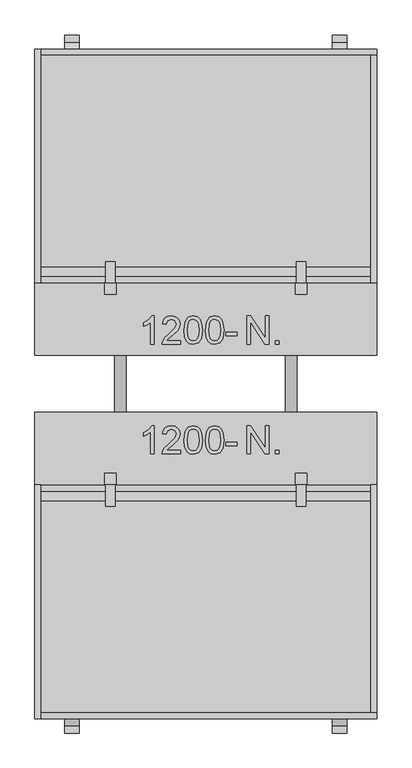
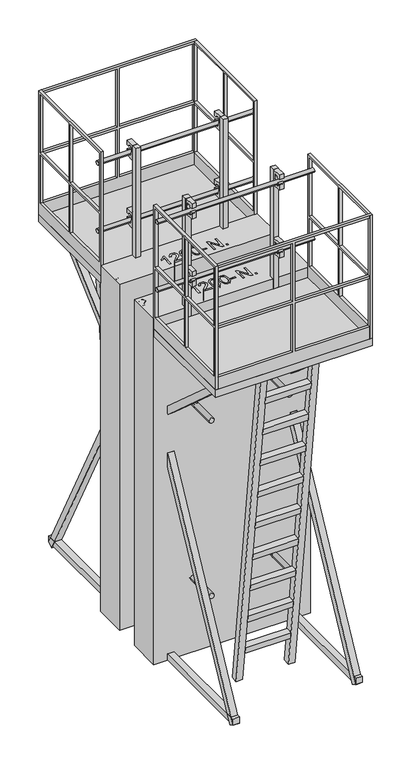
"""IFC4 building model written with IfcOpenShell, lengths in millimetres: proxy geometry, Hussor T10_Banche RNR : Hussor T10_Lg 1200_Ht 2800."""

from ifc_helpers import new_model, si_unit, point, frame, frame_2d, origin, origin_with_axes, place, context, project, spatial, polyline, circle_curve, trimmed, segment, composite_curve, outline, extrude, source, transform, mapped, element, save


def generic_models_e00ae9a7(model_context):
    return source(origin(), model_context, "Body", "SweptSolid", [
        extrude(outline(polyline([(744.6271812, -345.1349459), (744.6271812, -246.6734075), (757.8002581, -246.6734075), (809.2425658, -324.6782152), (809.2425658, -246.6734075), (821.5502581, -246.6734075), (821.5502581, -345.1349459), (808.3771812, -345.1349459), (756.9348735, -267.1060998), (756.9348735, -345.1349459), (744.6271812, -345.1349459)])), origin_with_axes(), (0.0, 0.0, 1.0), 2800.0),
        extrude(outline(polyline([(844.6271812, -345.1349459), (844.6271812, -332.8272536), (856.9348735, -332.8272536), (856.9348735, -345.1349459), (844.6271812, -345.1349459)])), origin_with_axes(), (0.0, 0.0, 1.0), 2800.0),
        extrude(outline(polyline([(419.0088327, -345.1349459), (406.7011404, -345.1349459), (406.7011404, -268.4041767), (395.0424866, -276.7094652), (382.0857558, -282.9234075), (382.0857558, -271.2887921), (400.1266212, -259.774369), (411.0761404, -246.6734075), (419.0088327, -246.6734075), (419.0088327, -345.1349459)])), origin_with_axes(), (0.0, 0.0, 1.0), 2800.0),
        extrude(outline(polyline([(511.316525, -332.8272536), (511.316525, -345.1349459), (446.7011404, -345.1349459), (448.0232558, -336.649369), (455.4992174, -323.5844652), (470.9078712, -309.3176383), (492.1578712, -288.8128306), (497.4703712, -274.8705229), (492.458352, -263.5844652), (479.3694097, -258.9810998), (465.7275827, -263.4762921), (460.5472943, -275.9041767), (448.239602, -274.3657152), (451.223376, -262.4606671), (457.6746981, -253.7647536), (467.2570299, -248.446244), (479.6338327, -246.6734075), (492.1007799, -248.6445613), (501.6650827, -254.5580229), (507.7498183, -263.3921575), (509.7780635, -274.1253306), (507.5905635, -285.7960036), (500.3189289, -297.8633113), (482.6867174, -314.7262921), (468.5280635, -326.5652344), (462.9751789, -332.8272536), (511.316525, -332.8272536)])), origin_with_axes(), (0.0, 0.0, 1.0), 2800.0),
        extrude(outline(polyline([(523.6242174, -296.6974459), (527.2420058, -268.368119), (537.9871981, -252.0339844), (555.9319097, -246.6734075), (570.3069097, -249.8464844), (580.2347943, -258.993119), (586.004025, -273.5604267), (588.239602, -296.6974459), (584.6578712, -324.9065806), (573.9487366, -341.2767729), (555.9319097, -346.6734075), (543.1434481, -344.3296575), (533.4319097, -337.2984075), (526.0761404, -320.6457633), (523.6242174, -296.6974459)]), holes=[polyline([(535.9319097, -296.6734075), (537.3742174, -316.0333834), (541.7011404, -327.2383113), (548.1434481, -332.5838642), (555.9319097, -334.3657152), (563.7203712, -332.5778546), (570.1626789, -327.2142729), (574.489602, -316.0033354), (575.9319097, -296.6734075), (574.5376789, -277.7491286), (570.3549866, -266.4570613), (563.9246981, -260.8500902), (555.7876789, -258.9810998), (548.083352, -260.6277344), (541.8934481, -265.5676383), (537.4222943, -277.5628306), (535.9319097, -296.6734075)])]), origin_with_axes(), (0.0, 0.0, 1.0), 2800.0),
        extrude(outline(polyline([(599.0088327, -296.6974459), (602.6266212, -268.368119), (613.3718135, -252.0339844), (631.316525, -246.6734075), (645.691525, -249.8464844), (655.6194097, -258.993119), (661.3886404, -273.5604267), (663.6242174, -296.6974459), (660.0424866, -324.9065806), (649.333352, -341.2767729), (631.316525, -346.6734075), (618.5280635, -344.3296575), (608.816525, -337.2984075), (601.4607558, -320.6457633), (599.0088327, -296.6974459)]), holes=[polyline([(611.316525, -296.6734075), (612.7588327, -316.0333834), (617.0857558, -327.2383113), (623.5280635, -332.5838642), (631.316525, -334.3657152), (639.1049866, -332.5778546), (645.5472943, -327.2142729), (649.8742174, -316.0033354), (651.316525, -296.6734075), (649.9222943, -277.7491286), (645.739602, -266.4570613), (639.3093135, -260.8500902), (631.1722943, -258.9810998), (623.4679674, -260.6277344), (617.2780635, -265.5676383), (612.8069097, -277.5628306), (611.316525, -296.6734075)])]), origin_with_axes(), (0.0, 0.0, 1.0), 2800.0),
        extrude(outline(polyline([(671.316525, -315.9041767), (671.316525, -303.5964844), (709.7780635, -303.5964844), (709.7780635, -315.9041767), (671.316525, -315.9041767)])), origin_with_axes(), (0.0, 0.0, 1.0), 2800.0),
        extrude(outline(polyline([(744.6271812, 40.0), (744.6271812, 138.4615385), (757.8002581, 138.4615385), (809.2425658, 60.4567308), (809.2425658, 138.4615385), (821.5502581, 138.4615385), (821.5502581, 40.0), (808.3771812, 40.0), (756.9348735, 118.0288462), (756.9348735, 40.0), (744.6271812, 40.0)])), origin_with_axes(), (0.0, 0.0, 1.0), 2800.0),
        extrude(outline(polyline([(844.6271812, 40.0), (844.6271812, 52.3076923), (856.9348735, 52.3076923), (856.9348735, 40.0), (844.6271812, 40.0)])), origin_with_axes(), (0.0, 0.0, 1.0), 2800.0),
        extrude(outline(polyline([(419.0088327, 40.0), (406.7011404, 40.0), (406.7011404, 116.7307692), (395.0424866, 108.4254808), (382.0857558, 102.2115385), (382.0857558, 113.8461538), (400.1266212, 125.3605769), (411.0761404, 138.4615385), (419.0088327, 138.4615385), (419.0088327, 40.0)])), origin_with_axes(), (0.0, 0.0, 1.0), 2800.0),
        extrude(outline(polyline([(511.316525, 52.3076923), (511.316525, 40.0), (446.7011404, 40.0), (448.0232558, 48.4855769), (455.4992174, 61.5504808), (470.9078712, 75.8173077), (492.1578712, 96.3221154), (497.4703712, 110.2644231), (492.458352, 121.5504808), (479.3694097, 126.1538462), (465.7275827, 121.6586538), (460.5472943, 109.2307692), (448.239602, 110.7692308), (451.223376, 122.6742788), (457.6746981, 131.3701923), (467.2570299, 136.6887019), (479.6338327, 138.4615385), (492.1007799, 136.4903846), (501.6650827, 130.5769231), (507.7498183, 121.7427885), (509.7780635, 111.0096154), (507.5905635, 99.3389423), (500.3189289, 87.2716346), (482.6867174, 70.4086538), (468.5280635, 58.5697115), (462.9751789, 52.3076923), (511.316525, 52.3076923)])), origin_with_axes(), (0.0, 0.0, 1.0), 2800.0),
        extrude(outline(polyline([(523.6242174, 88.4375), (527.2420058, 116.7668269), (537.9871981, 133.1009615), (555.9319097, 138.4615385), (570.3069097, 135.2884615), (580.2347943, 126.1418269), (586.004025, 111.5745192), (588.239602, 88.4375), (584.6578712, 60.2283654), (573.9487366, 43.8581731), (555.9319097, 38.4615385), (543.1434481, 40.8052885), (533.4319097, 47.8365385), (526.0761404, 64.4891827), (523.6242174, 88.4375)]), holes=[polyline([(535.9319097, 88.4615385), (537.3742174, 69.1015625), (541.7011404, 57.8966346), (548.1434481, 52.5510817), (555.9319097, 50.7692308), (563.7203712, 52.5570913), (570.1626789, 57.9206731), (574.489602, 69.1316106), (575.9319097, 88.4615385), (574.5376789, 107.3858173), (570.3549866, 118.6778846), (563.9246981, 124.2848558), (555.7876789, 126.1538462), (548.083352, 124.5072115), (541.8934481, 119.5673077), (537.4222943, 107.5721154), (535.9319097, 88.4615385)])]), origin_with_axes(), (0.0, 0.0, 1.0), 2800.0),
        extrude(outline(polyline([(599.0088327, 88.4375), (602.6266212, 116.7668269), (613.3718135, 133.1009615), (631.316525, 138.4615385), (645.691525, 135.2884615), (655.6194097, 126.1418269), (661.3886404, 111.5745192), (663.6242174, 88.4375), (660.0424866, 60.2283654), (649.333352, 43.8581731), (631.316525, 38.4615385), (618.5280635, 40.8052885), (608.816525, 47.8365385), (601.4607558, 64.4891827), (599.0088327, 88.4375)]), holes=[polyline([(611.316525, 88.4615385), (612.7588327, 69.1015625), (617.0857558, 57.8966346), (623.5280635, 52.5510817), (631.316525, 50.7692308), (639.1049866, 52.5570913), (645.5472943, 57.9206731), (649.8742174, 69.1316106), (651.316525, 88.4615385), (649.9222943, 107.3858173), (645.739602, 118.6778846), (639.3093135, 124.2848558), (631.1722943, 126.1538462), (623.4679674, 124.5072115), (617.2780635, 119.5673077), (612.8069097, 107.5721154), (611.316525, 88.4615385)])]), origin_with_axes(), (0.0, 0.0, 1.0), 2800.0),
        extrude(outline(polyline([(671.316525, 69.2307692), (671.316525, 81.5384615), (709.7780635, 81.5384615), (709.7780635, 69.2307692), (671.316525, 69.2307692)])), origin_with_axes(), (0.0, 0.0, 1.0), 2800.0),
        extrude(outline(composite_curve([segment(polyline([(-513.510911, 3615.0), (-514.6082276, 3608.7768085)]), True, "CONTINUOUS"), segment(trimmed(circle_curve(frame_2d((-494.9120725, 3605.3038449)), 20.0), [point((-514.6082276, 3608.7768085))], [point((-475.2159175, 3601.8308814))], True, "CARTESIAN"), True, "CONTINUOUS"), segment(polyline([(-475.2159175, 3601.8308814), (-468.2699903, 3641.2231915)]), True, "CONTINUOUS"), segment(trimmed(circle_curve(frame_2d((-487.9661454, 3644.696155)), 20.0), [point((-468.2699903, 3641.2231915))], [point((-507.6623005, 3648.1691186))], True, "CARTESIAN"), True, "CONTINUOUS"), segment(polyline([(-507.6623005, 3648.1691186), (-528.939109, 3648.0), (-528.939109, 3685.0), (-453.939109, 3685.0), (-453.939109, 3565.0), (-528.939109, 3565.0), (-528.939109, 3615.0), (-513.510911, 3615.0)]), True, "CONTINUOUS")], self_intersect=False)), frame((918.0, 0.0, 0.0), z_axis=(1.0, 0.0, 0.0), x_axis=(0.0, 1.0, 0.0)), (0.0, 0.0, 1.0), 34.0),
        extrude(outline(composite_curve([segment(polyline([(-453.939109, 3135.0), (-453.939109, 3015.0), (-528.939109, 3015.0), (-528.939109, 3065.0), (-513.510911, 3065.0), (-514.6082276, 3058.7768085)]), True, "CONTINUOUS"), segment(trimmed(circle_curve(frame_2d((-494.9120725, 3055.3038449)), 20.0), [point((-514.6082276, 3058.7768085))], [point((-475.2159175, 3051.8308814))], True, "CARTESIAN"), True, "CONTINUOUS"), segment(polyline([(-475.2159175, 3051.8308814), (-468.2699903, 3091.2231915)]), True, "CONTINUOUS"), segment(trimmed(circle_curve(frame_2d((-487.9661454, 3094.6961551)), 20.0), [point((-468.2699903, 3091.2231915))], [point((-507.6623005, 3098.1691186))], True, "CARTESIAN"), True, "CONTINUOUS"), segment(polyline([(-507.6623005, 3098.1691186), (-528.939109, 3098.0), (-528.939109, 3135.0), (-453.939109, 3135.0)]), True, "CONTINUOUS")], self_intersect=False)), frame((918.0, 0.0, 0.0), z_axis=(1.0, 0.0, 0.0), x_axis=(0.0, 1.0, 0.0)), (0.0, 0.0, 1.0), 34.0),
        extrude(outline(composite_curve([segment(polyline([(-513.510911, 3615.0), (-514.6082276, 3608.7768085)]), True, "CONTINUOUS"), segment(trimmed(circle_curve(frame_2d((-494.9120725, 3605.3038449)), 20.0), [point((-514.6082276, 3608.7768085))], [point((-475.2159175, 3601.8308814))], True, "CARTESIAN"), True, "CONTINUOUS"), segment(polyline([(-475.2159175, 3601.8308814), (-468.2699903, 3641.2231915)]), True, "CONTINUOUS"), segment(trimmed(circle_curve(frame_2d((-487.9661454, 3644.696155)), 20.0), [point((-468.2699903, 3641.2231915))], [point((-507.6623005, 3648.1691186))], True, "CARTESIAN"), True, "CONTINUOUS"), segment(polyline([(-507.6623005, 3648.1691186), (-528.939109, 3648.0), (-528.939109, 3685.0), (-453.939109, 3685.0), (-453.939109, 3565.0), (-528.939109, 3565.0), (-528.939109, 3615.0), (-513.510911, 3615.0)]), True, "CONTINUOUS")], self_intersect=False)), frame((248.0, 0.0, 0.0), z_axis=(1.0, 0.0, 0.0), x_axis=(0.0, 1.0, 0.0)), (0.0, 0.0, 1.0), 34.0),
        extrude(outline(composite_curve([segment(polyline([(-453.939109, 3135.0), (-453.939109, 3015.0), (-528.939109, 3015.0), (-528.939109, 3065.0), (-513.510911, 3065.0), (-514.6082276, 3058.7768085)]), True, "CONTINUOUS"), segment(trimmed(circle_curve(frame_2d((-494.9120725, 3055.3038449)), 20.0), [point((-514.6082276, 3058.7768085))], [point((-475.2159175, 3051.8308814))], True, "CARTESIAN"), True, "CONTINUOUS"), segment(polyline([(-475.2159175, 3051.8308814), (-468.2699903, 3091.2231915)]), True, "CONTINUOUS"), segment(trimmed(circle_curve(frame_2d((-487.9661454, 3094.6961551)), 20.0), [point((-468.2699903, 3091.2231915))], [point((-507.6623005, 3098.1691186))], True, "CARTESIAN"), True, "CONTINUOUS"), segment(polyline([(-507.6623005, 3098.1691186), (-528.939109, 3098.0), (-528.939109, 3135.0), (-453.939109, 3135.0)]), True, "CONTINUOUS")], self_intersect=False)), frame((248.0, 0.0, 0.0), z_axis=(1.0, 0.0, 0.0), x_axis=(0.0, 1.0, 0.0)), (0.0, 0.0, 1.0), 34.0),
        extrude(outline(composite_curve([segment(trimmed(circle_curve(frame_2d((-493.939109, 3606.8733785)), 16.0), [point((-509.939109, 3606.8733785))], [point((-477.939109, 3606.8733785))], False, "CARTESIAN"), True, "CONTINUOUS"), segment(trimmed(circle_curve(frame_2d((-493.939109, 3606.8733785)), 16.0), [point((-477.939109, 3606.8733785))], [point((-509.939109, 3606.8733785))], False, "CARTESIAN"), True, "CONTINUOUS")], self_intersect=False)), frame((0.0, 0.0, 0.0), z_axis=(1.0, 0.0, 0.0), x_axis=(0.0, 1.0, 0.0)), (0.0, 0.0, 1.0), 1200.3116462),
        extrude(outline(composite_curve([segment(trimmed(circle_curve(frame_2d((-493.939109, 3056.6233785)), 16.0), [point((-509.939109, 3056.6233785))], [point((-477.939109, 3056.6233785))], False, "CARTESIAN"), True, "CONTINUOUS"), segment(trimmed(circle_curve(frame_2d((-493.939109, 3056.6233785)), 16.0), [point((-477.939109, 3056.6233785))], [point((-509.939109, 3056.6233785))], False, "CARTESIAN"), True, "CONTINUOUS")], self_intersect=False)), frame((0.0, 0.0, 0.0), z_axis=(1.0, 0.0, 0.0), x_axis=(0.0, 1.0, 0.0)), (0.0, 0.0, 1.0), 1200.3116462),
        extrude(outline(polyline([(954.9140081, -413.939109), (954.9140081, -453.939109), (914.9140081, -453.939109), (914.9140081, -413.939109), (954.9140081, -413.939109)])), frame((0.0, 0.0, 2720.0), z_axis=(0.0, 0.0, 1.0), x_axis=(1.0, 0.0, 0.0)), (0.0, 0.0, 1.0), 965.0),
        extrude(outline(polyline([(285.0, -413.939109), (285.0, -453.939109), (245.0, -453.939109), (245.0, -413.939109), (285.0, -413.939109)])), frame((0.0, 0.0, 2720.0), z_axis=(0.0, 0.0, 1.0), x_axis=(1.0, 0.0, 0.0)), (0.0, 0.0, 1.0), 965.0),
        extrude(outline(composite_curve([segment(trimmed(circle_curve(frame_2d((600.0, 900.0)), 20.0), [point((600.0, 880.0))], [point((600.0, 920.0))], False, "CARTESIAN"), True, "CONTINUOUS"), segment(trimmed(circle_curve(frame_2d((600.0, 900.0)), 20.0), [point((600.0, 920.0))], [point((600.0, 880.0))], False, "CARTESIAN"), True, "CONTINUOUS")], self_intersect=False)), frame((0.0, -700.0, 0.0), z_axis=(0.0, 1.0, 0.0), x_axis=(0.0, 0.0, 1.0)), (0.0, 0.0, 1.0), 1000.0),
        extrude(outline(composite_curve([segment(trimmed(circle_curve(frame_2d((2020.0, 900.0)), 20.0), [point((2020.0, 880.0))], [point((2020.0, 920.0))], False, "CARTESIAN"), True, "CONTINUOUS"), segment(trimmed(circle_curve(frame_2d((2020.0, 900.0)), 20.0), [point((2020.0, 920.0))], [point((2020.0, 880.0))], False, "CARTESIAN"), True, "CONTINUOUS")], self_intersect=False)), frame((0.0, -700.0, 0.0), z_axis=(0.0, 1.0, 0.0), x_axis=(0.0, 0.0, 1.0)), (0.0, 0.0, 1.0), 1000.0),
        extrude(outline(composite_curve([segment(trimmed(circle_curve(frame_2d((2020.0, 300.0)), 20.0), [point((2020.0, 280.0))], [point((2020.0, 320.0))], False, "CARTESIAN"), True, "CONTINUOUS"), segment(trimmed(circle_curve(frame_2d((2020.0, 300.0)), 20.0), [point((2020.0, 320.0))], [point((2020.0, 280.0))], False, "CARTESIAN"), True, "CONTINUOUS")], self_intersect=False)), frame((0.0, -700.0, 0.0), z_axis=(0.0, 1.0, 0.0), x_axis=(0.0, 0.0, 1.0)), (0.0, 0.0, 1.0), 1000.0),
        extrude(outline(composite_curve([segment(trimmed(circle_curve(frame_2d((600.0, 300.0)), 20.0), [point((600.0, 280.0))], [point((600.0, 320.0))], False, "CARTESIAN"), True, "CONTINUOUS"), segment(trimmed(circle_curve(frame_2d((600.0, 300.0)), 20.0), [point((600.0, 320.0))], [point((600.0, 280.0))], False, "CARTESIAN"), True, "CONTINUOUS")], self_intersect=False)), frame((0.0, -700.0, 0.0), z_axis=(0.0, 1.0, 0.0), x_axis=(0.0, 0.0, 1.0)), (0.0, 0.0, 1.0), 1000.0),
        extrude(outline(polyline([(0.0, -993.6216584), (0.0, 0.0), (50.0, 0.0), (50.0, -993.6216584), (0.0, -993.6216584)])), frame((105.0, -462.3142578, 1994.7151475), z_axis=(0.0, 0.6662851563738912, 0.7456970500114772), x_axis=(1.0, 0.0, 0.0)), (0.0, 0.0, 1.0), 50.0),
        extrude(outline(polyline([(0.0, 993.6216584), (50.0, 993.6216584), (50.0, 0.0), (0.0, 0.0), (0.0, 993.6216584)])), frame((1095.0, -462.3142578, 1994.7151475), z_axis=(0.0, 0.6662851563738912, 0.7456970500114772), x_axis=(-1.0, 0.0, 0.0)), (0.0, 0.0, 1.0), 50.0),
        extrude(outline(polyline([(0.0, -50.0), (0.0, 0.0), (50.0, 0.0), (50.0, -50.0), (0.0, -50.0)])), frame((105.0, -1279.6283217, -23.0467821), z_axis=(0.0, 0.46093564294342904, 0.8874335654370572), x_axis=(1.0, 0.0, 0.0)), (0.0, 0.0, 1.0), 1887.4652315),
        extrude(outline(polyline([(0.0, 50.0), (50.0, 50.0), (50.0, 0.0), (0.0, 0.0), (0.0, 50.0)])), frame((1095.0, -1279.6283217, -23.0467821), z_axis=(0.0, 0.46093564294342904, 0.8874335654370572), x_axis=(-1.0, 0.0, 0.0)), (0.0, 0.0, 1.0), 1887.4652315),
        extrude(outline(polyline([(0.0, 350.0), (49.9999999, 350.0), (49.9999999, 0.0), (0.0, 0.0), (0.0, 350.0)])), frame((425.0, -875.6560615, 233.2417409), z_axis=(0.0, -0.12186934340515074, 0.9925461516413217), x_axis=(0.0, -0.9925461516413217, -0.12186934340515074)), (0.0, 0.0, 1.0), 50.0),
        extrude(outline(polyline([(0.0, 350.0), (50.0, 350.0), (50.0, 0.0), (0.0, 0.0), (0.0, 350.0)])), frame((425.0, -909.1701309, 506.1919326), z_axis=(0.0, -0.1218693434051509, 0.9925461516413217), x_axis=(0.0, -0.9925461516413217, -0.1218693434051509)), (0.0, 0.0, 1.0), 50.0),
        extrude(outline(polyline([(0.0, 350.0), (50.0, 350.0), (50.0, 0.0), (0.0, 0.0), (0.0, 350.0)])), frame((425.0, -942.6842003, 779.1421243), z_axis=(0.0, -0.12186934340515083, 0.9925461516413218), x_axis=(0.0, -0.9925461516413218, -0.12186934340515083)), (0.0, 0.0, 1.0), 50.0),
        extrude(outline(polyline([(0.0, 350.0), (50.0, 350.0), (50.0, 0.0), (0.0, 0.0), (0.0, 350.0)])), frame((425.0, -976.1982698, 1052.092316), z_axis=(0.0, -0.12186934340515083, 0.9925461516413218), x_axis=(0.0, -0.9925461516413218, -0.12186934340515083)), (0.0, 0.0, 1.0), 50.0),
        extrude(outline(polyline([(0.0, 350.0), (50.0, 350.0), (50.0, 0.0), (0.0, 0.0), (0.0, 350.0)])), frame((425.0, -1009.7123392, 1325.0425077), z_axis=(0.0, -0.12186934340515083, 0.9925461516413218), x_axis=(0.0, -0.9925461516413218, -0.12186934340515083)), (0.0, 0.0, 1.0), 50.0),
        extrude(outline(polyline([(0.0, 350.0), (50.0, 350.0), (50.0, 0.0), (0.0, 0.0), (0.0, 350.0)])), frame((425.0, -1043.2264086, 1597.9926994), z_axis=(0.0, -0.12186934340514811, 0.992546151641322), x_axis=(0.0, -0.992546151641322, -0.12186934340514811)), (0.0, 0.0, 1.0), 50.0),
        extrude(outline(polyline([(0.0, 350.0), (50.0, 350.0), (50.0, 0.0), (0.0, 0.0), (0.0, 350.0)])), frame((425.0, -1076.7404781, 1870.9428911), z_axis=(0.0, -0.12186934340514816, 0.992546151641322), x_axis=(0.0, -0.992546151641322, -0.12186934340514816)), (0.0, 0.0, 1.0), 50.0),
        extrude(outline(polyline([(0.0, 350.0), (50.0, 350.0), (50.0, 0.0), (0.0, 0.0), (0.0, 350.0)])), frame((425.0, -1110.2545475, 2143.8930828), z_axis=(0.0, -0.12186934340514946, 0.9925461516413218), x_axis=(0.0, -0.9925461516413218, -0.12186934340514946)), (0.0, 0.0, 1.0), 50.0),
        extrude(outline(polyline([(0.0, 350.0), (49.9999999, 350.0), (49.9999999, 0.0), (0.0, 0.0), (0.0, 350.0)])), frame((425.0, -1143.768617, 2416.8432745), z_axis=(0.0, -0.1218693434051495, 0.9925461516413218), x_axis=(0.0, -0.9925461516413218, -0.1218693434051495)), (0.0, 0.0, 1.0), 50.0),
        extrude(outline(polyline([(0.0, 50.0), (50.0, 50.0), (50.0, 0.0), (0.0, 0.0), (0.0, 50.0)])), frame((375.0, -847.7657604, 6.0934672), z_axis=(0.0, -0.1218693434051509, 0.9925461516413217), x_axis=(0.0, -0.9925461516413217, -0.1218693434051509)), (0.0, 0.0, 1.0), 2679.9761357),
        extrude(outline(polyline([(0.0, 50.0), (50.0, 50.0), (50.0, 0.0), (0.0, 0.0), (0.0, 50.0)])), frame((775.0, -847.7657604, 6.0934672), z_axis=(0.0, -0.1218693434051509, 0.9925461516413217), x_axis=(0.0, -0.9925461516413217, -0.1218693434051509)), (0.0, 0.0, 1.0), 2679.9761357),
        extrude(outline(polyline([(105.0, -454.0), (155.0, -454.0), (155.0, -1324.0), (105.0, -1324.0), (105.0, -454.0)])), origin_with_axes(), (0.0, 0.0, 1.0), 50.0),
        extrude(outline(polyline([(1095.0, -1324.0), (1045.0, -1324.0), (1045.0, -454.0), (1095.0, -454.0), (1095.0, -1324.0)])), origin_with_axes(), (0.0, 0.0, 1.0), 50.0),
        extrude(outline(polyline([(-1274.0, 3720.0), (-454.0, 3720.0), (-454.0, 2720.0), (-1274.0, 2720.0), (-1274.0, 3720.0)]), holes=[polyline([(-854.0, 3700.0), (-854.0, 3230.0), (-474.0, 3230.0), (-474.0, 3700.0), (-854.0, 3700.0)]), polyline([(-1254.0, 3700.0), (-1254.0, 3230.0), (-874.0, 3230.0), (-874.0, 3700.0), (-1254.0, 3700.0)]), polyline([(-874.0, 2820.0), (-874.0, 3210.0), (-1254.0, 3210.0), (-1254.0, 2820.0), (-874.0, 2820.0)]), polyline([(-474.0, 2820.0), (-474.0, 3210.0), (-854.0, 3210.0), (-854.0, 2820.0), (-474.0, 2820.0)])]), frame((0.0, 0.0, 0.0), z_axis=(1.0, 0.0, 0.0), x_axis=(0.0, 1.0, 0.0)), (0.0, 0.0, 1.0), 20.0),
        extrude(outline(polyline([(3720.0, 1200.0), (3720.0, 0.0), (2720.0, 0.0), (2720.0, 1200.0), (3720.0, 1200.0)]), holes=[polyline([(3700.0, 590.0), (3230.0, 590.0), (3230.0, 20.0), (3700.0, 20.0), (3700.0, 590.0)]), polyline([(3210.0, 590.0), (2820.0, 590.0), (2820.0, 20.0), (3210.0, 20.0), (3210.0, 590.0)]), polyline([(3700.0, 1180.0), (3230.0, 1180.0), (3230.0, 610.0), (3700.0, 610.0), (3700.0, 1180.0)]), polyline([(3210.0, 1180.0), (2820.0, 1180.0), (2820.0, 610.0), (3210.0, 610.0), (3210.0, 1180.0)])]), frame((0.0, -1274.0, 0.0), z_axis=(0.0, 1.0, 0.0), x_axis=(0.0, 0.0, 1.0)), (0.0, 0.0, 1.0), 20.0),
        extrude(outline(polyline([(-1274.0, 3720.0), (-454.0, 3720.0), (-454.0, 2720.0), (-1274.0, 2720.0), (-1274.0, 3720.0)]), holes=[polyline([(-854.0, 3700.0), (-854.0, 3230.0), (-474.0, 3230.0), (-474.0, 3700.0), (-854.0, 3700.0)]), polyline([(-1254.0, 3700.0), (-1254.0, 3230.0), (-874.0, 3230.0), (-874.0, 3700.0), (-1254.0, 3700.0)]), polyline([(-874.0, 2820.0), (-874.0, 3210.0), (-1254.0, 3210.0), (-1254.0, 2820.0), (-874.0, 2820.0)]), polyline([(-474.0, 2820.0), (-474.0, 3210.0), (-854.0, 3210.0), (-854.0, 2820.0), (-474.0, 2820.0)])]), frame((1180.0, 0.0, 0.0), z_axis=(1.0, 0.0, 0.0), x_axis=(0.0, 1.0, 0.0)), (0.0, 0.0, 1.0), 20.0),
        extrude(outline(polyline([(0.0, -454.0), (1200.0, -454.0), (1200.0, -1274.0), (0.0, -1274.0), (0.0, -454.0)])), frame((0.0, 0.0, 2660.0), z_axis=(0.0, 0.0, 1.0), x_axis=(1.0, 0.0, 0.0)), (0.0, 0.0, 1.0), 60.0),
        extrude(outline(polyline([(1200.0, -200.0), (1200.0, -454.0), (0.0, -454.0), (0.0, -200.0), (1200.0, -200.0)])), origin_with_axes(), (0.0, 0.0, 1.0), 2800.0),
        extrude(outline(composite_curve([segment(polyline([(313.510911, 3615.0), (328.939109, 3615.0), (328.939109, 3565.0), (253.939109, 3565.0), (253.939109, 3685.0), (328.939109, 3685.0), (328.939109, 3648.0), (307.6623005, 3648.1691186)]), True, "CONTINUOUS"), segment(trimmed(circle_curve(frame_2d((287.9661454, 3644.696155)), 20.0), [point((307.6623005, 3648.1691186))], [point((268.2699903, 3641.2231915))], True, "CARTESIAN"), True, "CONTINUOUS"), segment(polyline([(268.2699903, 3641.2231915), (275.2159175, 3601.8308814)]), True, "CONTINUOUS"), segment(trimmed(circle_curve(frame_2d((294.9120725, 3605.3038449)), 20.0), [point((275.2159175, 3601.8308814))], [point((314.6082276, 3608.7768085))], True, "CARTESIAN"), True, "CONTINUOUS"), segment(polyline([(314.6082276, 3608.7768085), (313.510911, 3615.0)]), True, "CONTINUOUS")], self_intersect=False)), frame((918.0, 0.0, 0.0), z_axis=(1.0, 0.0, 0.0), x_axis=(0.0, 1.0, 0.0)), (0.0, 0.0, 1.0), 34.0),
        extrude(outline(composite_curve([segment(polyline([(253.939109, 3135.0), (328.939109, 3135.0), (328.939109, 3098.0), (307.6623005, 3098.1691186)]), True, "CONTINUOUS"), segment(trimmed(circle_curve(frame_2d((287.9661454, 3094.6961551)), 20.0), [point((307.6623005, 3098.1691186))], [point((268.2699903, 3091.2231915))], True, "CARTESIAN"), True, "CONTINUOUS"), segment(polyline([(268.2699903, 3091.2231915), (275.2159175, 3051.8308814)]), True, "CONTINUOUS"), segment(trimmed(circle_curve(frame_2d((294.9120725, 3055.3038449)), 20.0), [point((275.2159175, 3051.8308814))], [point((314.6082276, 3058.7768085))], True, "CARTESIAN"), True, "CONTINUOUS"), segment(polyline([(314.6082276, 3058.7768085), (313.510911, 3065.0), (328.939109, 3065.0), (328.939109, 3015.0), (253.939109, 3015.0), (253.939109, 3135.0)]), True, "CONTINUOUS")], self_intersect=False)), frame((918.0, 0.0, 0.0), z_axis=(1.0, 0.0, 0.0), x_axis=(0.0, 1.0, 0.0)), (0.0, 0.0, 1.0), 34.0),
        extrude(outline(composite_curve([segment(polyline([(313.510911, 3615.0), (328.939109, 3615.0), (328.939109, 3565.0), (253.939109, 3565.0), (253.939109, 3685.0), (328.939109, 3685.0), (328.939109, 3648.0), (307.6623005, 3648.1691186)]), True, "CONTINUOUS"), segment(trimmed(circle_curve(frame_2d((287.9661454, 3644.696155)), 20.0), [point((307.6623005, 3648.1691186))], [point((268.2699903, 3641.2231915))], True, "CARTESIAN"), True, "CONTINUOUS"), segment(polyline([(268.2699903, 3641.2231915), (275.2159175, 3601.8308814)]), True, "CONTINUOUS"), segment(trimmed(circle_curve(frame_2d((294.9120725, 3605.3038449)), 20.0), [point((275.2159175, 3601.8308814))], [point((314.6082276, 3608.7768085))], True, "CARTESIAN"), True, "CONTINUOUS"), segment(polyline([(314.6082276, 3608.7768085), (313.510911, 3615.0)]), True, "CONTINUOUS")], self_intersect=False)), frame((248.0, 0.0, 0.0), z_axis=(1.0, 0.0, 0.0), x_axis=(0.0, 1.0, 0.0)), (0.0, 0.0, 1.0), 34.0),
        extrude(outline(composite_curve([segment(polyline([(253.939109, 3135.0), (328.939109, 3135.0), (328.939109, 3098.0), (307.6623005, 3098.1691186)]), True, "CONTINUOUS"), segment(trimmed(circle_curve(frame_2d((287.9661454, 3094.6961551)), 20.0), [point((307.6623005, 3098.1691186))], [point((268.2699903, 3091.2231915))], True, "CARTESIAN"), True, "CONTINUOUS"), segment(polyline([(268.2699903, 3091.2231915), (275.2159175, 3051.8308814)]), True, "CONTINUOUS"), segment(trimmed(circle_curve(frame_2d((294.9120725, 3055.3038449)), 20.0), [point((275.2159175, 3051.8308814))], [point((314.6082276, 3058.7768085))], True, "CARTESIAN"), True, "CONTINUOUS"), segment(polyline([(314.6082276, 3058.7768085), (313.510911, 3065.0), (328.939109, 3065.0), (328.939109, 3015.0), (253.939109, 3015.0), (253.939109, 3135.0)]), True, "CONTINUOUS")], self_intersect=False)), frame((248.0, 0.0, 0.0), z_axis=(1.0, 0.0, 0.0), x_axis=(0.0, 1.0, 0.0)), (0.0, 0.0, 1.0), 34.0),
        extrude(outline(composite_curve([segment(trimmed(circle_curve(frame_2d((293.939109, 3606.8733785)), 16.0), [point((309.939109, 3606.8733785))], [point((277.939109, 3606.8733785))], False, "CARTESIAN"), True, "CONTINUOUS"), segment(trimmed(circle_curve(frame_2d((293.939109, 3606.8733785)), 16.0), [point((277.939109, 3606.8733785))], [point((309.939109, 3606.8733785))], False, "CARTESIAN"), True, "CONTINUOUS")], self_intersect=False)), frame((0.0, 0.0, 0.0), z_axis=(1.0, 0.0, 0.0), x_axis=(0.0, 1.0, 0.0)), (0.0, 0.0, 1.0), 1200.3116462),
        extrude(outline(composite_curve([segment(trimmed(circle_curve(frame_2d((293.939109, 3056.6233785)), 16.0), [point((309.939109, 3056.6233785))], [point((277.939109, 3056.6233785))], False, "CARTESIAN"), True, "CONTINUOUS"), segment(trimmed(circle_curve(frame_2d((293.939109, 3056.6233785)), 16.0), [point((277.939109, 3056.6233785))], [point((309.939109, 3056.6233785))], False, "CARTESIAN"), True, "CONTINUOUS")], self_intersect=False)), frame((0.0, 0.0, 0.0), z_axis=(1.0, 0.0, 0.0), x_axis=(0.0, 1.0, 0.0)), (0.0, 0.0, 1.0), 1200.3116462),
        extrude(outline(polyline([(954.9140081, 213.939109), (914.9140081, 213.939109), (914.9140081, 253.939109), (954.9140081, 253.939109), (954.9140081, 213.939109)])), frame((0.0, 0.0, 2720.0), z_axis=(0.0, 0.0, 1.0), x_axis=(1.0, 0.0, 0.0)), (0.0, 0.0, 1.0), 965.0),
        extrude(outline(polyline([(285.0, 213.939109), (245.0, 213.939109), (245.0, 253.939109), (285.0, 253.939109), (285.0, 213.939109)])), frame((0.0, 0.0, 2720.0), z_axis=(0.0, 0.0, 1.0), x_axis=(1.0, 0.0, 0.0)), (0.0, 0.0, 1.0), 965.0),
        extrude(outline(composite_curve([segment(trimmed(circle_curve(frame_2d((600.0, 900.0)), 20.0), [point((600.0, 880.0))], [point((600.0, 920.0))], False, "CARTESIAN"), True, "CONTINUOUS"), segment(trimmed(circle_curve(frame_2d((600.0, 900.0)), 20.0), [point((600.0, 920.0))], [point((600.0, 880.0))], False, "CARTESIAN"), True, "CONTINUOUS")], self_intersect=False)), frame((0.0, -500.0, 0.0), z_axis=(0.0, 1.0, 0.0), x_axis=(0.0, 0.0, 1.0)), (0.0, 0.0, 1.0), 1000.0),
        extrude(outline(composite_curve([segment(trimmed(circle_curve(frame_2d((2020.0, 900.0)), 20.0), [point((2020.0, 880.0))], [point((2020.0, 920.0))], False, "CARTESIAN"), True, "CONTINUOUS"), segment(trimmed(circle_curve(frame_2d((2020.0, 900.0)), 20.0), [point((2020.0, 920.0))], [point((2020.0, 880.0))], False, "CARTESIAN"), True, "CONTINUOUS")], self_intersect=False)), frame((0.0, -500.0, 0.0), z_axis=(0.0, 1.0, 0.0), x_axis=(0.0, 0.0, 1.0)), (0.0, 0.0, 1.0), 1000.0),
        extrude(outline(composite_curve([segment(trimmed(circle_curve(frame_2d((2020.0, 300.0)), 20.0), [point((2020.0, 280.0))], [point((2020.0, 320.0))], False, "CARTESIAN"), True, "CONTINUOUS"), segment(trimmed(circle_curve(frame_2d((2020.0, 300.0)), 20.0), [point((2020.0, 320.0))], [point((2020.0, 280.0))], False, "CARTESIAN"), True, "CONTINUOUS")], self_intersect=False)), frame((0.0, -500.0, 0.0), z_axis=(0.0, 1.0, 0.0), x_axis=(0.0, 0.0, 1.0)), (0.0, 0.0, 1.0), 1000.0),
        extrude(outline(composite_curve([segment(trimmed(circle_curve(frame_2d((600.0, 300.0)), 20.0), [point((600.0, 280.0))], [point((600.0, 320.0))], False, "CARTESIAN"), True, "CONTINUOUS"), segment(trimmed(circle_curve(frame_2d((600.0, 300.0)), 20.0), [point((600.0, 320.0))], [point((600.0, 280.0))], False, "CARTESIAN"), True, "CONTINUOUS")], self_intersect=False)), frame((0.0, -500.0, 0.0), z_axis=(0.0, 1.0, 0.0), x_axis=(0.0, 0.0, 1.0)), (0.0, 0.0, 1.0), 1000.0),
        extrude(outline(polyline([(0.0, 993.6216584), (50.0, 993.6216584), (50.0, 0.0), (0.0, 0.0), (0.0, 993.6216584)])), frame((105.0, 262.3142578, 1994.7151475), z_axis=(0.0, -0.6662851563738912, 0.7456970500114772), x_axis=(1.0, 0.0, 0.0)), (0.0, 0.0, 1.0), 50.0),
        extrude(outline(polyline([(0.0, -993.6216584), (0.0, 0.0), (50.0, 0.0), (50.0, -993.6216584), (0.0, -993.6216584)])), frame((1095.0, 262.3142578, 1994.7151475), z_axis=(0.0, -0.6662851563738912, 0.7456970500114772), x_axis=(-1.0, 0.0, 0.0)), (0.0, 0.0, 1.0), 50.0),
        extrude(outline(polyline([(0.0, 50.0), (50.0, 50.0), (50.0, 0.0), (0.0, 0.0), (0.0, 50.0)])), frame((105.0, 1079.6283217, -23.0467821), z_axis=(0.0, -0.46093564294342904, 0.8874335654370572), x_axis=(1.0, 0.0, 0.0)), (0.0, 0.0, 1.0), 1887.4652315),
        extrude(outline(polyline([(0.0, -50.0), (0.0, 0.0), (50.0, 0.0), (50.0, -50.0), (0.0, -50.0)])), frame((1095.0, 1079.6283217, -23.0467821), z_axis=(0.0, -0.46093564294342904, 0.8874335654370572), x_axis=(-1.0, 0.0, 0.0)), (0.0, 0.0, 1.0), 1887.4652315),
        extrude(outline(polyline([(0.0, -350.0), (0.0, 0.0), (49.9999999, 0.0), (49.9999999, -350.0), (0.0, -350.0)])), frame((425.0, 675.6560615, 233.2417409), z_axis=(0.0, 0.12186934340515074, 0.9925461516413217), x_axis=(0.0, 0.9925461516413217, -0.12186934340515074)), (0.0, 0.0, 1.0), 50.0),
        extrude(outline(polyline([(0.0, -350.0), (0.0, 0.0), (50.0, 0.0), (50.0, -350.0), (0.0, -350.0)])), frame((425.0, 709.1701309, 506.1919326), z_axis=(0.0, 0.1218693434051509, 0.9925461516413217), x_axis=(0.0, 0.9925461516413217, -0.1218693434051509)), (0.0, 0.0, 1.0), 50.0),
        extrude(outline(polyline([(0.0, -350.0), (0.0, 0.0), (50.0, 0.0), (50.0, -350.0), (0.0, -350.0)])), frame((425.0, 742.6842003, 779.1421243), z_axis=(0.0, 0.12186934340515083, 0.9925461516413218), x_axis=(0.0, 0.9925461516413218, -0.12186934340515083)), (0.0, 0.0, 1.0), 50.0),
        extrude(outline(polyline([(0.0, -350.0), (0.0, 0.0), (50.0, 0.0), (50.0, -350.0), (0.0, -350.0)])), frame((425.0, 776.1982698, 1052.092316), z_axis=(0.0, 0.12186934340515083, 0.9925461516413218), x_axis=(0.0, 0.9925461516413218, -0.12186934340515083)), (0.0, 0.0, 1.0), 50.0),
        extrude(outline(polyline([(0.0, -350.0), (0.0, 0.0), (50.0, 0.0), (50.0, -350.0), (0.0, -350.0)])), frame((425.0, 809.7123392, 1325.0425077), z_axis=(0.0, 0.12186934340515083, 0.9925461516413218), x_axis=(0.0, 0.9925461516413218, -0.12186934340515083)), (0.0, 0.0, 1.0), 50.0),
        extrude(outline(polyline([(0.0, -350.0), (0.0, 0.0), (50.0, 0.0), (50.0, -350.0), (0.0, -350.0)])), frame((425.0, 843.2264086, 1597.9926994), z_axis=(0.0, 0.12186934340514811, 0.992546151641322), x_axis=(0.0, 0.992546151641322, -0.12186934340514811)), (0.0, 0.0, 1.0), 50.0),
        extrude(outline(polyline([(0.0, -350.0), (0.0, 0.0), (50.0, 0.0), (50.0, -350.0), (0.0, -350.0)])), frame((425.0, 876.7404781, 1870.9428911), z_axis=(0.0, 0.12186934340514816, 0.992546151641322), x_axis=(0.0, 0.992546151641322, -0.12186934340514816)), (0.0, 0.0, 1.0), 50.0),
        extrude(outline(polyline([(0.0, -350.0), (0.0, 0.0), (50.0, 0.0), (50.0, -350.0), (0.0, -350.0)])), frame((425.0, 910.2545475, 2143.8930828), z_axis=(0.0, 0.12186934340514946, 0.9925461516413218), x_axis=(0.0, 0.9925461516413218, -0.12186934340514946)), (0.0, 0.0, 1.0), 50.0),
        extrude(outline(polyline([(0.0, -350.0), (0.0, 0.0), (49.9999999, 0.0), (49.9999999, -350.0), (0.0, -350.0)])), frame((425.0, 943.768617, 2416.8432745), z_axis=(0.0, 0.1218693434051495, 0.9925461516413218), x_axis=(0.0, 0.9925461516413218, -0.1218693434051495)), (0.0, 0.0, 1.0), 50.0),
        extrude(outline(polyline([(0.0, -50.0), (0.0, 0.0), (50.0, 0.0), (50.0, -50.0), (0.0, -50.0)])), frame((375.0, 647.7657604, 6.0934672), z_axis=(0.0, 0.1218693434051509, 0.9925461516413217), x_axis=(0.0, 0.9925461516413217, -0.1218693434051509)), (0.0, 0.0, 1.0), 2679.9761357),
        extrude(outline(polyline([(0.0, -50.0), (0.0, 0.0), (50.0, 0.0), (50.0, -50.0), (0.0, -50.0)])), frame((775.0, 647.7657604, 6.0934672), z_axis=(0.0, 0.1218693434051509, 0.9925461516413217), x_axis=(0.0, 0.9925461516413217, -0.1218693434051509)), (0.0, 0.0, 1.0), 2679.9761357),
        extrude(outline(polyline([(105.0, 254.0), (105.0, 1124.0), (155.0, 1124.0), (155.0, 254.0), (105.0, 254.0)])), origin_with_axes(), (0.0, 0.0, 1.0), 50.0),
        extrude(outline(polyline([(1095.0, 1124.0), (1095.0, 254.0), (1045.0, 254.0), (1045.0, 1124.0), (1095.0, 1124.0)])), origin_with_axes(), (0.0, 0.0, 1.0), 50.0),
        extrude(outline(polyline([(1074.0, 3720.0), (1074.0, 2720.0), (254.0, 2720.0), (254.0, 3720.0), (1074.0, 3720.0)]), holes=[polyline([(654.0, 3700.0), (274.0, 3700.0), (274.0, 3230.0), (654.0, 3230.0), (654.0, 3700.0)]), polyline([(1054.0, 3700.0), (674.0, 3700.0), (674.0, 3230.0), (1054.0, 3230.0), (1054.0, 3700.0)]), polyline([(674.0, 2820.0), (1054.0, 2820.0), (1054.0, 3210.0), (674.0, 3210.0), (674.0, 2820.0)]), polyline([(274.0, 2820.0), (654.0, 2820.0), (654.0, 3210.0), (274.0, 3210.0), (274.0, 2820.0)])]), frame((0.0, 0.0, 0.0), z_axis=(1.0, 0.0, 0.0), x_axis=(0.0, 1.0, 0.0)), (0.0, 0.0, 1.0), 20.0),
        extrude(outline(polyline([(3720.0, 1200.0), (3720.0, 0.0), (2720.0, 0.0), (2720.0, 1200.0), (3720.0, 1200.0)]), holes=[polyline([(3700.0, 590.0), (3230.0, 590.0), (3230.0, 20.0), (3700.0, 20.0), (3700.0, 590.0)]), polyline([(3210.0, 590.0), (2820.0, 590.0), (2820.0, 20.0), (3210.0, 20.0), (3210.0, 590.0)]), polyline([(3700.0, 1180.0), (3230.0, 1180.0), (3230.0, 610.0), (3700.0, 610.0), (3700.0, 1180.0)]), polyline([(3210.0, 1180.0), (2820.0, 1180.0), (2820.0, 610.0), (3210.0, 610.0), (3210.0, 1180.0)])]), frame((0.0, 1054.0, 0.0), z_axis=(0.0, 1.0, 0.0), x_axis=(0.0, 0.0, 1.0)), (0.0, 0.0, 1.0), 20.0),
        extrude(outline(polyline([(1074.0, 3720.0), (1074.0, 2720.0), (254.0, 2720.0), (254.0, 3720.0), (1074.0, 3720.0)]), holes=[polyline([(654.0, 3700.0), (274.0, 3700.0), (274.0, 3230.0), (654.0, 3230.0), (654.0, 3700.0)]), polyline([(1054.0, 3700.0), (674.0, 3700.0), (674.0, 3230.0), (1054.0, 3230.0), (1054.0, 3700.0)]), polyline([(674.0, 2820.0), (1054.0, 2820.0), (1054.0, 3210.0), (674.0, 3210.0), (674.0, 2820.0)]), polyline([(274.0, 2820.0), (654.0, 2820.0), (654.0, 3210.0), (274.0, 3210.0), (274.0, 2820.0)])]), frame((1180.0, 0.0, 0.0), z_axis=(1.0, 0.0, 0.0), x_axis=(0.0, 1.0, 0.0)), (0.0, 0.0, 1.0), 20.0),
        extrude(outline(polyline([(0.0, 254.0), (0.0, 1074.0), (1200.0, 1074.0), (1200.0, 254.0), (0.0, 254.0)])), frame((0.0, 0.0, 2660.0), z_axis=(0.0, 0.0, 1.0), x_axis=(1.0, 0.0, 0.0)), (0.0, 0.0, 1.0), 60.0),
        extrude(outline(polyline([(1200.0, 0.0), (0.0, 0.0), (0.0, 254.0), (1200.0, 254.0), (1200.0, 0.0)])), origin_with_axes(), (0.0, 0.0, 1.0), 2800.0),
        extrude(outline(polyline([(61.784475, -278.7253178), (61.784475, -287.9560871), (13.3229365, -287.9560871), (14.3145231, -281.5919044), (19.9214942, -271.7932265), (31.4779846, -261.0931063), (47.4154846, -245.7145005), (51.3998596, -235.2577698), (47.6408452, -226.7932265), (37.8241384, -223.3407025), (27.5927683, -226.7120967), (23.7075519, -236.0330102), (14.4767827, -234.879164), (16.7146132, -225.9503779), (21.5531048, -219.4284428), (38.0224558, -214.1099332), (47.3726661, -215.5882986), (54.5458933, -220.0233948), (59.1094449, -226.6489957), (60.6306288, -234.6988755), (58.9900038, -243.4518803), (53.5362779, -252.5023611), (40.3121192, -265.1495967), (29.6931288, -274.0288034), (25.5284654, -278.7253178), (61.784475, -278.7253178)])), origin_with_axes(), (0.0, 0.0, 1.0), 2800.0),
        extrude(outline(polyline([(39.0083883, 12.3486929), (29.7776191, 12.3486929), (29.7776191, 69.8967698), (21.0336287, 63.6678035), (11.3160806, 59.0073468), (11.3160806, 67.7333083), (24.8467296, 76.3691256), (33.0588691, 86.1948468), (39.0083883, 86.1948468), (39.0083883, 12.3486929)])), origin_with_axes(), (0.0, 0.0, 1.0), 2800.0),
    ])


if __name__ == "__main__":
    model = new_model("IFC4")
    model_context = context("Model", 3, world=origin())
    ifc_project = project(units=[si_unit("LENGTHUNIT", "METRE", prefix="MILLI")], contexts=[model_context])
    site = spatial("IfcSite", under=ifc_project)
    building = spatial("IfcBuilding", under=site)
    placement = place(None, origin())
    generic_models_shape = generic_models_e00ae9a7(model_context)
    element("IfcBuildingElementProxy", 1, Name="Hussor T10_Banche RNR : Hussor T10_Lg 1200_Ht 2800", ObjectType="Hussor T10_Banche RNR : Hussor T10_Lg 1200_Ht 2800", at=placement, inside=building, context=model_context, shape_type="MappedRepresentation", body=[
        mapped(generic_models_shape, transform((0.0, 0.0, 0.0), x_axis=(1.0, 0.0, 0.0), y_axis=(0.0, 1.0, 0.0), z_axis=(0.0, 0.0, 1.0))),
    ])
    save(model, "model.ifc")
